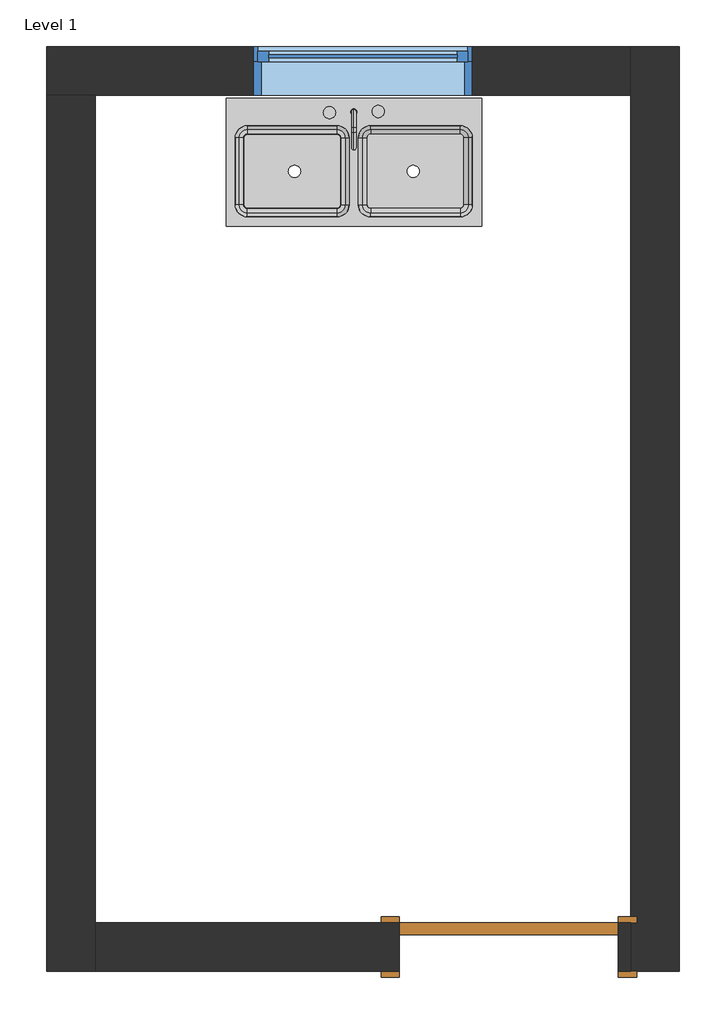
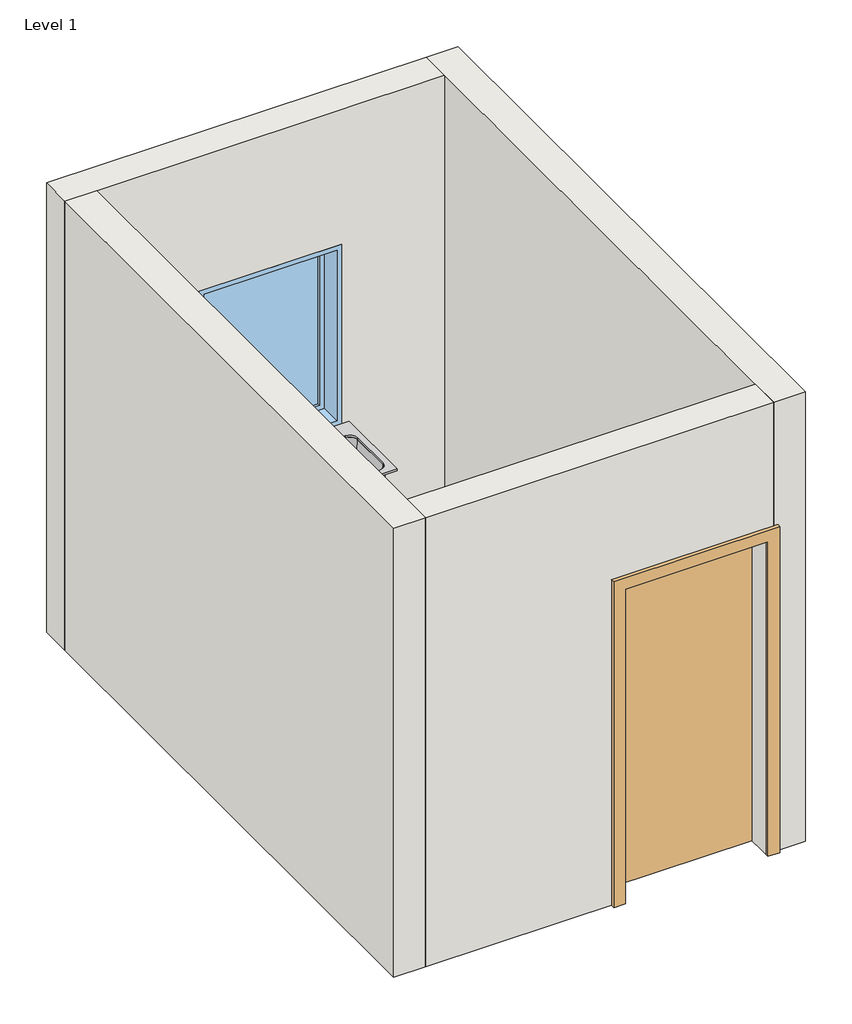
# One storey: 4 walls, 1 door, 1 flow terminal, 1 window.
"""IFC4 building model written with IfcOpenShell, lengths in millimetres."""

from ifc_helpers import new_model, si_unit, frame, origin, place, context, project, spatial, polyline, outline, extrude, faceted_brep, transform, mapped, element, save
from components import door_54dd4da4, flow_terminal_be612caf, window_e2841890

model = new_model("IFC4")

# Units and contexts
model_context = context("Model", 3, world=origin())
ifc_project = project(units=[si_unit("LENGTHUNIT", "METRE", prefix="MILLI")], contexts=[model_context])

# Site, building, storey
site = spatial("IfcSite", under=ifc_project)
building = spatial("IfcBuilding", under=site)
storey = spatial("IfcBuildingStorey", under=building, Name="Level 1", Elevation=0.0)

# Door
placement = place(None, origin())
door_shape = door_54dd4da4(model_context)
element("IfcDoor", 1, ObjectType="Single-Flush : 36\" x 84\"", at=placement, inside=storey, context=model_context, shape_type="MappedRepresentation", body=[
    mapped(door_shape, transform((-1335.8513488, 4196.5620945, 0.0), x_axis=(0.9999999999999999, 0.0, 0.0), y_axis=(0.0, 0.9999999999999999, 0.0), z_axis=(0.0, 0.0, 1.0))),
])

# Flow terminal
flow_terminal_shape = flow_terminal_be612caf(model_context)
element("IfcFlowTerminal", 2, ObjectType="Sink Kitchen-Double : 42\" x 21\"", at=placement, inside=storey, context=model_context, shape_type="MappedRepresentation", body=[
    mapped(flow_terminal_shape, transform((-1999.2405894, 7470.8166934, 0.0), x_axis=(1.0, 0.0, 0.0), y_axis=(0.0, 1.0, 0.0), z_axis=(0.0, 0.0, 1.0))),
])

# Walls
element("IfcWall", 3, ObjectType="Generic - 8\"", at=placement, inside=storey, context=model_context, shape_type="Brep", body=[
    faceted_brep([(-3266.2513488, 7752.5620945, 0.0), (-3063.0513488, 7752.5620945, 0.0), (-827.8513488, 7752.5620945, 0.0), (-827.8513488, 7752.5620945, 3048.0), (-3063.0513488, 7752.5620945, 3048.0), (-3266.2513488, 7752.5620945, 3048.0), (-1488.2513488, 7752.5620945, 2133.6), (-1488.2513488, 7752.5620945, 914.4), (-2402.6513488, 7752.5620945, 914.4), (-2402.6513488, 7752.5620945, 2133.6), (-3266.2513488, 7955.7620945, 0.0), (-3266.2513488, 7955.7620945, 3048.0), (-827.8513488, 7955.7620945, 3048.0), (-827.8513488, 7955.7620945, 0.0), (-1488.2513488, 7955.7620945, 2133.6), (-2402.6513488, 7955.7620945, 2133.6), (-2402.6513488, 7955.7620945, 914.4), (-1488.2513488, 7955.7620945, 914.4)], [[[0, 1, 2, 3, 4, 5], [6, 7, 8, 9]], [[10, 11, 12, 13], [14, 15, 16, 17]], [[2, 1, 0, 10, 13]], [[5, 4, 3, 12, 11]], [[0, 5, 11, 10]], [[3, 2, 13, 12]], [[7, 6, 14, 17]], [[8, 7, 17, 16]], [[9, 8, 16, 15]], [[6, 9, 15, 14]]]),
])
element("IfcWall", 4, ObjectType="Generic - 8\"", at=placement, inside=storey, context=model_context, shape_type="Brep", body=[
    faceted_brep([(-3063.0513488, 4094.9620945, 0.0), (-3063.0513488, 4298.1620945, 0.0), (-3063.0513488, 7752.5620945, 0.0), (-3063.0513488, 7752.5620945, 3048.0), (-3063.0513488, 4298.1620945, 3048.0), (-3063.0513488, 4094.9620945, 3048.0), (-3266.2513488, 4094.9620945, 0.0), (-3266.2513488, 4094.9620945, 3048.0), (-3266.2513488, 7752.5620945, 3048.0), (-3266.2513488, 7752.5620945, 0.0)], [[[0, 1, 2, 3, 4, 5]], [[6, 7, 8, 9]], [[2, 1, 0, 6, 9]], [[5, 4, 3, 8, 7]], [[0, 5, 7, 6]], [[3, 2, 9, 8]]]),
])
element("IfcWall", 5, ObjectType="Generic - 8\"", at=placement, inside=storey, context=model_context, shape_type="SweptSolid", body=[
    extrude(outline(polyline([(2133.6, -878.6513488), (0.0, -878.6513488), (0.0, -827.8513488), (3048.0, -827.8513488), (3048.0, -3063.0513488), (0.0, -3063.0513488), (0.0, -1793.0513488), (2133.6, -1793.0513488), (2133.6, -878.6513488)])), frame((0.0, 4094.9620945, 0.0), z_axis=(0.0, 1.0, 0.0), x_axis=(0.0, 0.0, 1.0)), (0.0, 0.0, 1.0), 203.2),
])
element("IfcWall", 6, ObjectType="Generic - 8\"", at=placement, inside=storey, context=model_context, shape_type="Brep", body=[
    faceted_brep([(-827.8513488, 7955.7620945, 0.0), (-827.8513488, 7752.5620945, 0.0), (-827.8513488, 4298.1620945, 0.0), (-827.8513488, 4094.9620945, 0.0), (-827.8513488, 4094.9620945, 3048.0), (-827.8513488, 4298.1620945, 3048.0), (-827.8513488, 7752.5620945, 3048.0), (-827.8513488, 7955.7620945, 3048.0), (-624.6513488, 7955.7620945, 0.0), (-624.6513488, 7955.7620945, 3048.0), (-624.6513488, 4094.9620945, 3048.0), (-624.6513488, 4094.9620945, 0.0)], [[[0, 1, 2, 3, 4, 5, 6, 7]], [[8, 9, 10, 11]], [[3, 2, 1, 0, 8, 11]], [[7, 6, 5, 4, 10, 9]], [[0, 7, 9, 8]], [[4, 3, 11, 10]]]),
])

# Window
window_shape = window_e2841890(model_context)
element("IfcWindow", 7, ObjectType="Fixed : 36\" x 48\"", at=placement, inside=storey, context=model_context, shape_type="MappedRepresentation", body=[
    mapped(window_shape, transform((-1907.3513488, 7854.1620945, 0.0), x_axis=(0.9999999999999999, 0.0, 0.0), y_axis=(0.0, 0.9999999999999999, 0.0), z_axis=(0.0, 0.0, 1.0))),
])

save(model, "model.ifc")
